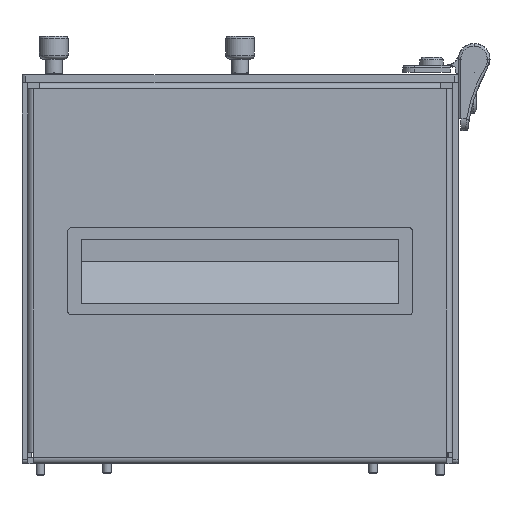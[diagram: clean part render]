
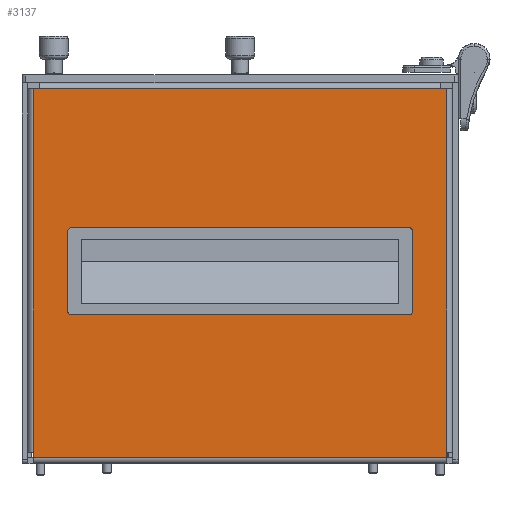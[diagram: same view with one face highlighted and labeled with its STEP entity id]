
A CAD part, left-side view. The second image highlights one B-rep face of the part: STEP entity #3137.
In plain terms, the highlighted planar face has unit normal (-1, 0, 0).
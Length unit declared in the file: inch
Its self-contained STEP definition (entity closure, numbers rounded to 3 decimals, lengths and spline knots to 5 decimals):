
#2587=CARTESIAN_POINT('',(-8.50048,4.27605,-5.11956));
#2588=VERTEX_POINT('',#2587);
#2606=CARTESIAN_POINT('',(-8.50048,4.27605,0.61044));
#2607=VERTEX_POINT('',#2606);
#2615=CARTESIAN_POINT('',(-8.50048,4.27605,-5.11956));
#2616=DIRECTION('',(0.0,0.0,1.0));
#2617=VECTOR('',#2616,5.73);
#2618=LINE('',#2615,#2617);
#2619=EDGE_CURVE('',#2588,#2607,#2618,.T.);
#2639=CARTESIAN_POINT('',(-8.50048,4.27605,-5.20856));
#2640=VERTEX_POINT('',#2639);
#2648=CARTESIAN_POINT('',(-8.50048,10.78905,-5.20856));
#2649=VERTEX_POINT('',#2648);
#2650=CARTESIAN_POINT('',(-8.50048,4.27605,-5.20856));
#2651=DIRECTION('',(0.0,1.0,0.0));
#2652=VECTOR('',#2651,6.513);
#2653=LINE('',#2650,#2652);
#2654=EDGE_CURVE('',#2640,#2649,#2653,.T.);
#2976=CARTESIAN_POINT('',(-8.50048,10.78905,-5.11956));
#2977=VERTEX_POINT('',#2976);
#2985=CARTESIAN_POINT('',(-8.50048,10.78905,0.61044));
#2986=VERTEX_POINT('',#2985);
#2987=CARTESIAN_POINT('',(-8.50048,10.78905,0.61044));
#2988=DIRECTION('',(0.0,0.0,-1.0));
#2989=VECTOR('',#2988,5.73);
#2990=LINE('',#2987,#2989);
#2991=EDGE_CURVE('',#2986,#2977,#2990,.T.);
#3011=CARTESIAN_POINT('',(-8.50048,7.53255,-2.29956));
#3012=DIRECTION('',(-1.0,0.0,0.0));
#3013=DIRECTION('',(0.0,-1.0,0.0));
#3014=AXIS2_PLACEMENT_3D('',#3011,#3012,#3013);
#3015=PLANE('',#3014);
#3016=ORIENTED_EDGE('',*,*,#2654,.F.);
#3017=CARTESIAN_POINT('',(-8.50048,4.27605,-5.20856));
#3018=DIRECTION('',(0.0,0.0,1.0));
#3019=VECTOR('',#3018,0.089);
#3020=LINE('',#3017,#3019);
#3021=EDGE_CURVE('',#2640,#2588,#3020,.T.);
#3022=ORIENTED_EDGE('',*,*,#3021,.T.);
#3023=ORIENTED_EDGE('',*,*,#2619,.T.);
#3024=CARTESIAN_POINT('',(-8.50048,4.37235,0.61044));
#3025=VERTEX_POINT('',#3024);
#3026=CARTESIAN_POINT('',(-8.50048,4.37235,0.61044));
#3027=DIRECTION('',(0.0,-1.0,0.0));
#3028=VECTOR('',#3027,0.0963);
#3029=LINE('',#3026,#3028);
#3030=EDGE_CURVE('',#3025,#2607,#3029,.T.);
#3031=ORIENTED_EDGE('',*,*,#3030,.F.);
#3032=CARTESIAN_POINT('',(-8.50048,4.37235,0.60924));
#3033=VERTEX_POINT('',#3032);
#3034=CARTESIAN_POINT('',(-8.50048,4.37235,0.61044));
#3035=DIRECTION('',(0.0,0.0,-1.0));
#3036=VECTOR('',#3035,0.0012);
#3037=LINE('',#3034,#3036);
#3038=EDGE_CURVE('',#3025,#3033,#3037,.T.);
#3039=ORIENTED_EDGE('',*,*,#3038,.T.);
#3040=CARTESIAN_POINT('',(-8.50048,4.37255,0.60924));
#3041=VERTEX_POINT('',#3040);
#3042=CARTESIAN_POINT('',(-8.50048,4.37235,0.60924));
#3043=DIRECTION('',(0.0,1.0,0.0));
#3044=VECTOR('',#3043,0.0002);
#3045=LINE('',#3042,#3044);
#3046=EDGE_CURVE('',#3033,#3041,#3045,.T.);
#3047=ORIENTED_EDGE('',*,*,#3046,.T.);
#3048=CARTESIAN_POINT('',(-8.50048,4.37255,0.60944));
#3049=VERTEX_POINT('',#3048);
#3050=CARTESIAN_POINT('',(-8.50048,4.37255,0.60924));
#3051=DIRECTION('',(0.0,0.0,1.0));
#3052=VECTOR('',#3051,0.0002);
#3053=LINE('',#3050,#3052);
#3054=EDGE_CURVE('',#3041,#3049,#3053,.T.);
#3055=ORIENTED_EDGE('',*,*,#3054,.T.);
#3056=CARTESIAN_POINT('',(-8.50048,10.69255,0.60944));
#3057=VERTEX_POINT('',#3056);
#3058=CARTESIAN_POINT('',(-8.50048,4.37255,0.60944));
#3059=DIRECTION('',(0.0,1.0,0.0));
#3060=VECTOR('',#3059,6.32);
#3061=LINE('',#3058,#3060);
#3062=EDGE_CURVE('',#3049,#3057,#3061,.T.);
#3063=ORIENTED_EDGE('',*,*,#3062,.T.);
#3064=CARTESIAN_POINT('',(-8.50048,10.69255,0.60924));
#3065=VERTEX_POINT('',#3064);
#3066=CARTESIAN_POINT('',(-8.50048,10.69255,0.60944));
#3067=DIRECTION('',(0.0,0.0,-1.0));
#3068=VECTOR('',#3067,0.0002);
#3069=LINE('',#3066,#3068);
#3070=EDGE_CURVE('',#3057,#3065,#3069,.T.);
#3071=ORIENTED_EDGE('',*,*,#3070,.T.);
#3072=CARTESIAN_POINT('',(-8.50048,10.69275,0.60924));
#3073=VERTEX_POINT('',#3072);
#3074=CARTESIAN_POINT('',(-8.50048,10.69255,0.60924));
#3075=DIRECTION('',(0.0,1.0,0.0));
#3076=VECTOR('',#3075,0.0002);
#3077=LINE('',#3074,#3076);
#3078=EDGE_CURVE('',#3065,#3073,#3077,.T.);
#3079=ORIENTED_EDGE('',*,*,#3078,.T.);
#3080=CARTESIAN_POINT('',(-8.50048,10.69275,0.61044));
#3081=VERTEX_POINT('',#3080);
#3082=CARTESIAN_POINT('',(-8.50048,10.69275,0.60924));
#3083=DIRECTION('',(0.0,0.0,1.0));
#3084=VECTOR('',#3083,0.0012);
#3085=LINE('',#3082,#3084);
#3086=EDGE_CURVE('',#3073,#3081,#3085,.T.);
#3087=ORIENTED_EDGE('',*,*,#3086,.T.);
#3088=CARTESIAN_POINT('',(-8.50048,10.78905,0.61044));
#3089=DIRECTION('',(0.0,-1.0,0.0));
#3090=VECTOR('',#3089,0.0963);
#3091=LINE('',#3088,#3090);
#3092=EDGE_CURVE('',#2986,#3081,#3091,.T.);
#3093=ORIENTED_EDGE('',*,*,#3092,.F.);
#3094=ORIENTED_EDGE('',*,*,#2991,.T.);
#3095=CARTESIAN_POINT('',(-8.50048,10.78905,-5.11956));
#3096=DIRECTION('',(0.0,0.0,-1.0));
#3097=VECTOR('',#3096,0.089);
#3098=LINE('',#3095,#3097);
#3099=EDGE_CURVE('',#2977,#2649,#3098,.T.);
#3100=ORIENTED_EDGE('',*,*,#3099,.T.);
#3101=EDGE_LOOP('',(#3016,#3022,#3023,#3031,#3039,#3047,#3055,#3063,#3071,#3079,#3087,#3093,#3094,#3100));
#3102=FACE_OUTER_BOUND('',#3101,.T.);
#3103=CARTESIAN_POINT('',(-8.50048,10.13255,-2.85956));
#3104=VERTEX_POINT('',#3103);
#3105=CARTESIAN_POINT('',(-8.50048,10.13255,-1.64956));
#3106=VERTEX_POINT('',#3105);
#3107=CARTESIAN_POINT('',(-8.50048,10.13255,-2.85956));
#3108=DIRECTION('',(0.0,0.0,1.0));
#3109=VECTOR('',#3108,1.21);
#3110=LINE('',#3107,#3109);
#3111=EDGE_CURVE('',#3104,#3106,#3110,.T.);
#3112=ORIENTED_EDGE('',*,*,#3111,.T.);
#3113=CARTESIAN_POINT('',(-8.50048,4.93255,-1.64956));
#3114=VERTEX_POINT('',#3113);
#3115=CARTESIAN_POINT('',(-8.50048,10.13255,-1.64956));
#3116=DIRECTION('',(0.0,-1.0,0.0));
#3117=VECTOR('',#3116,5.2);
#3118=LINE('',#3115,#3117);
#3119=EDGE_CURVE('',#3106,#3114,#3118,.T.);
#3120=ORIENTED_EDGE('',*,*,#3119,.T.);
#3121=CARTESIAN_POINT('',(-8.50048,4.93255,-2.85956));
#3122=VERTEX_POINT('',#3121);
#3123=CARTESIAN_POINT('',(-8.50048,4.93255,-1.64956));
#3124=DIRECTION('',(0.0,0.0,-1.0));
#3125=VECTOR('',#3124,1.21);
#3126=LINE('',#3123,#3125);
#3127=EDGE_CURVE('',#3114,#3122,#3126,.T.);
#3128=ORIENTED_EDGE('',*,*,#3127,.T.);
#3129=CARTESIAN_POINT('',(-8.50048,4.93255,-2.85956));
#3130=DIRECTION('',(0.0,1.0,0.0));
#3131=VECTOR('',#3130,5.2);
#3132=LINE('',#3129,#3131);
#3133=EDGE_CURVE('',#3122,#3104,#3132,.T.);
#3134=ORIENTED_EDGE('',*,*,#3133,.T.);
#3135=EDGE_LOOP('',(#3112,#3120,#3128,#3134));
#3136=FACE_BOUND('',#3135,.T.);
#3137=ADVANCED_FACE('',(#3102,#3136),#3015,.T.);
